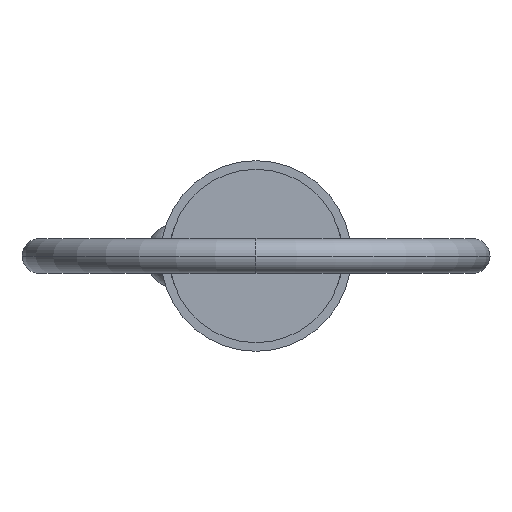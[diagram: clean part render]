
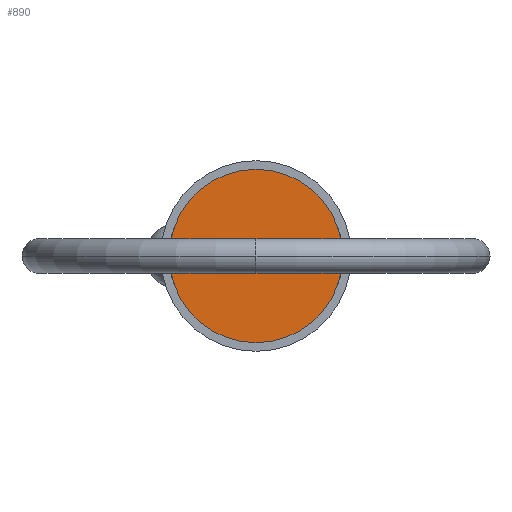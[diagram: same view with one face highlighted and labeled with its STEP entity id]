
A CAD part, left-side view. The second image highlights one B-rep face of the part: STEP entity #890.
In plain terms, the highlighted planar face has unit normal (-1, 0, 0).
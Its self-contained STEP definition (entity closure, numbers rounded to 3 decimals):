
#33 = VERTEX_POINT ( 'NONE', #980 ) ;
#42 = CIRCLE ( 'NONE', #118, 12.7 ) ;
#43 = VERTEX_POINT ( 'NONE', #961 ) ;
#118 = AXIS2_PLACEMENT_3D ( 'NONE', #796, #381, #294 ) ;
#123 = CARTESIAN_POINT ( 'NONE',  ( 0., 0., 0. ) ) ;
#140 = DIRECTION ( 'NONE',  ( 1., 0., 0. ) ) ;
#209 = PLANE ( 'NONE',  #1084 ) ;
#294 = DIRECTION ( 'NONE',  ( 0., 0., -1. ) ) ;
#353 = ORIENTED_EDGE ( 'NONE', *, *, #437, .F. ) ;
#366 = DIRECTION ( 'NONE',  ( 0., 0., -1. ) ) ;
#381 = DIRECTION ( 'NONE',  ( 1., 0., 0. ) ) ;
#437 = EDGE_CURVE ( 'NONE', #33, #43, #755, .T. ) ;
#492 = AXIS2_PLACEMENT_3D ( 'NONE', #978, #140, #366 ) ;
#543 = FACE_OUTER_BOUND ( 'NONE', #643, .T. ) ;
#643 = EDGE_LOOP ( 'NONE', ( #838, #353 ) ) ;
#755 = CIRCLE ( 'NONE', #492, 12.7 ) ;
#787 = EDGE_CURVE ( 'NONE', #43, #33, #42, .T. ) ;
#796 = CARTESIAN_POINT ( 'NONE',  ( 0., 0., 0. ) ) ;
#838 = ORIENTED_EDGE ( 'NONE', *, *, #787, .F. ) ;
#886 = DIRECTION ( 'NONE',  ( 0., 0., 1. ) ) ;
#890 = ADVANCED_FACE ( 'NONE', ( #543 ), #209, .T. ) ;
#961 = CARTESIAN_POINT ( 'NONE',  ( 0., 0., -12.7 ) ) ;
#978 = CARTESIAN_POINT ( 'NONE',  ( 0., 0., 0. ) ) ;
#980 = CARTESIAN_POINT ( 'NONE',  ( 0., 0., 12.7 ) ) ;
#1049 = DIRECTION ( 'NONE',  ( -1., 0., 0. ) ) ;
#1084 = AXIS2_PLACEMENT_3D ( 'NONE', #123, #1049, #886 ) ;
